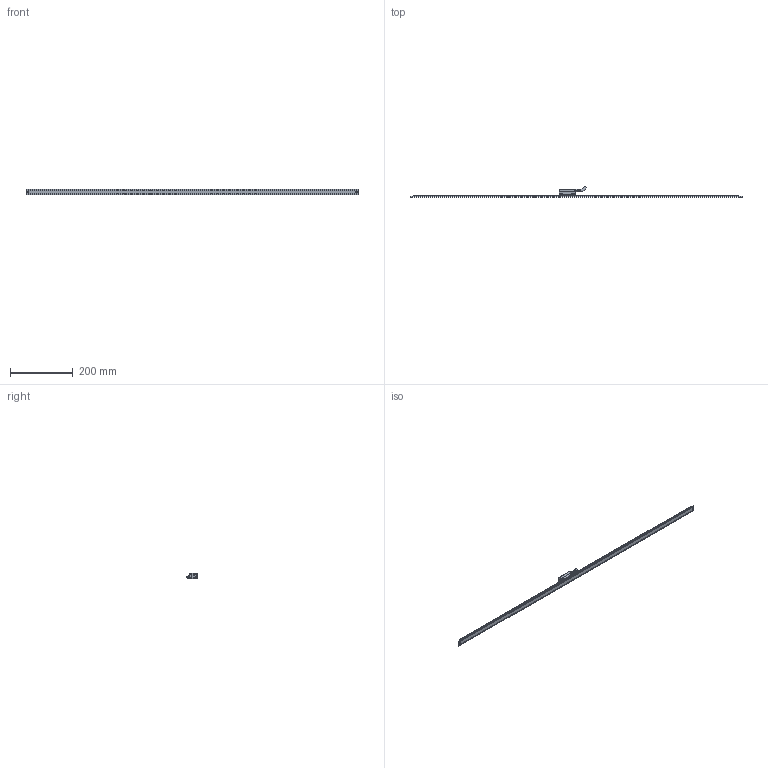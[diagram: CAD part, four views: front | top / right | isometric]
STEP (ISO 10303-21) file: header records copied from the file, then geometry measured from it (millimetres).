
FILE_DESCRIPTION (( 'STEP AP214' ), '1' );
FILE_NAME ('LA12_SAS10_scale.STEP', '2021-10-22T11:31:08', ( '' ), ( '' ), 'SwSTEP 2.0', 'SolidWorks 2020', '' );
FILE_SCHEMA (( 'AUTOMOTIVE_DESIGN' ));
Length unit declared in the file: millimetre
Products named in the file (3): LA12_readhead; LA12_SAS10_scale; Letev_SAS_L1060mm_NOcoverfoil
Assembly tree (2 placements, depth 2):
  LA12_SAS10_scale
    Letev_SAS_L1060mm_NOcoverfoil
    LA12_readhead
Bounding box: 1060 x 32.65 x 18 mm (x, y, z)
Volume: 122708 mm3; surface area: 97294.4 mm2
Topology: 3 solids, 4 shells, 322 faces, 768 edges, 470 vertices
Faces by surface type: plane 147, cylinder 97, cone 56, torus 16, bspline 4, sphere 2
Entity records: 10881 total; most frequent: CARTESIAN_POINT 1897, DIRECTION 1643, ORIENTED_EDGE 1528, EDGE_CURVE 764, AXIS2_PLACEMENT_3D 580, VECTOR 483, LINE 483, VERTEX_POINT 470
